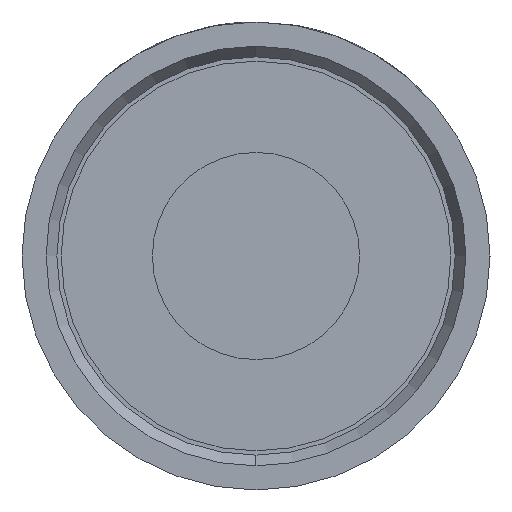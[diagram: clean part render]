
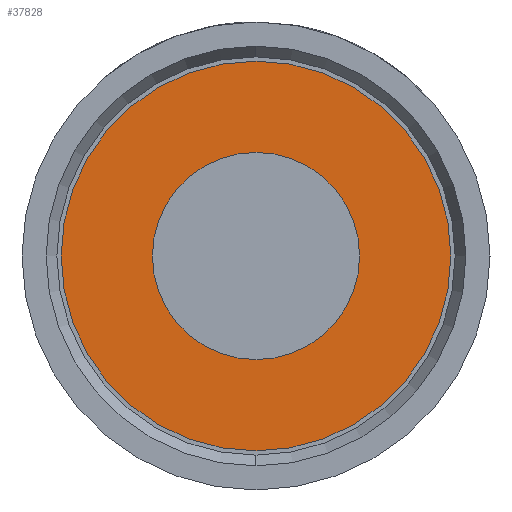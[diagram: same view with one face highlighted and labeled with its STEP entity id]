
A CAD part, left-side view. The second image highlights one B-rep face of the part: STEP entity #37828.
In plain terms, the highlighted planar face has unit normal (-1, 0, 0).
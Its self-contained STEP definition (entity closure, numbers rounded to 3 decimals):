
#100 = CARTESIAN_POINT ( 'NONE',  ( -50.793, 10.161, 15.195 ) ) ;
#121 = DIRECTION ( 'NONE',  ( -1., 0., 0. ) ) ;
#2582 = AXIS2_PLACEMENT_3D ( 'NONE', #7125, #30722, #15668 ) ;
#2797 = CARTESIAN_POINT ( 'NONE',  ( -50.793, 10.161, 16.846 ) ) ;
#3090 = DIRECTION ( 'NONE',  ( 0., 0., 1. ) ) ;
#3298 = CARTESIAN_POINT ( 'NONE',  ( -50.793, 10.161, 15.195 ) ) ;
#3497 = DIRECTION ( 'NONE',  ( -1., 0., 0. ) ) ;
#3518 = PLANE ( 'NONE',  #26593 ) ;
#5381 = AXIS2_PLACEMENT_3D ( 'NONE', #3298, #3497, #3090 ) ;
#5666 = DIRECTION ( 'NONE',  ( -1., 0., 0. ) ) ;
#7125 = CARTESIAN_POINT ( 'NONE',  ( -50.793, 10.161, 15.195 ) ) ;
#7467 = DIRECTION ( 'NONE',  ( 0., 0., -1. ) ) ;
#8464 = EDGE_CURVE ( 'NONE', #32893, #24074, #37648, .T. ) ;
#8678 = CIRCLE ( 'NONE', #17501, 1.651 ) ;
#9176 = ORIENTED_EDGE ( 'NONE', *, *, #19773, .F. ) ;
#9324 = ORIENTED_EDGE ( 'NONE', *, *, #8464, .F. ) ;
#10599 = EDGE_CURVE ( 'NONE', #26319, #29254, #8678, .T. ) ;
#10866 = CARTESIAN_POINT ( 'NONE',  ( -50.793, 10.161, 16.072 ) ) ;
#11926 = EDGE_LOOP ( 'NONE', ( #17559, #18431 ) ) ;
#14995 = CARTESIAN_POINT ( 'NONE',  ( -50.793, 10.161, 15.195 ) ) ;
#15133 = CIRCLE ( 'NONE', #22751, 0.878 ) ;
#15668 = DIRECTION ( 'NONE',  ( 0., 0., 1. ) ) ;
#17501 = AXIS2_PLACEMENT_3D ( 'NONE', #14995, #121, #31452 ) ;
#17559 = ORIENTED_EDGE ( 'NONE', *, *, #23882, .T. ) ;
#18431 = ORIENTED_EDGE ( 'NONE', *, *, #10599, .T. ) ;
#19773 = EDGE_CURVE ( 'NONE', #24074, #32893, #15133, .T. ) ;
#22751 = AXIS2_PLACEMENT_3D ( 'NONE', #100, #5666, #38555 ) ;
#23882 = EDGE_CURVE ( 'NONE', #29254, #26319, #34250, .T. ) ;
#24074 = VERTEX_POINT ( 'NONE', #10866 ) ;
#25028 = CARTESIAN_POINT ( 'NONE',  ( -50.793, 10.161, 14.317 ) ) ;
#25487 = CARTESIAN_POINT ( 'NONE',  ( -50.793, 11.812, 15.195 ) ) ;
#25539 = EDGE_LOOP ( 'NONE', ( #9176, #9324 ) ) ;
#26319 = VERTEX_POINT ( 'NONE', #31574 ) ;
#26593 = AXIS2_PLACEMENT_3D ( 'NONE', #25487, #28113, #7467 ) ;
#28113 = DIRECTION ( 'NONE',  ( 1., 0., 0. ) ) ;
#29254 = VERTEX_POINT ( 'NONE', #2797 ) ;
#30722 = DIRECTION ( 'NONE',  ( -1., 0., 0. ) ) ;
#31452 = DIRECTION ( 'NONE',  ( 0., 0., 1. ) ) ;
#31574 = CARTESIAN_POINT ( 'NONE',  ( -50.793, 10.161, 13.544 ) ) ;
#32893 = VERTEX_POINT ( 'NONE', #25028 ) ;
#33443 = FACE_OUTER_BOUND ( 'NONE', #11926, .T. ) ;
#34250 = CIRCLE ( 'NONE', #2582, 1.651 ) ;
#37648 = CIRCLE ( 'NONE', #5381, 0.878 ) ;
#37828 = ADVANCED_FACE ( 'NONE', ( #38956, #33443 ), #3518, .F. ) ;
#38555 = DIRECTION ( 'NONE',  ( 0., 0., 1. ) ) ;
#38956 = FACE_BOUND ( 'NONE', #25539, .T. ) ;
